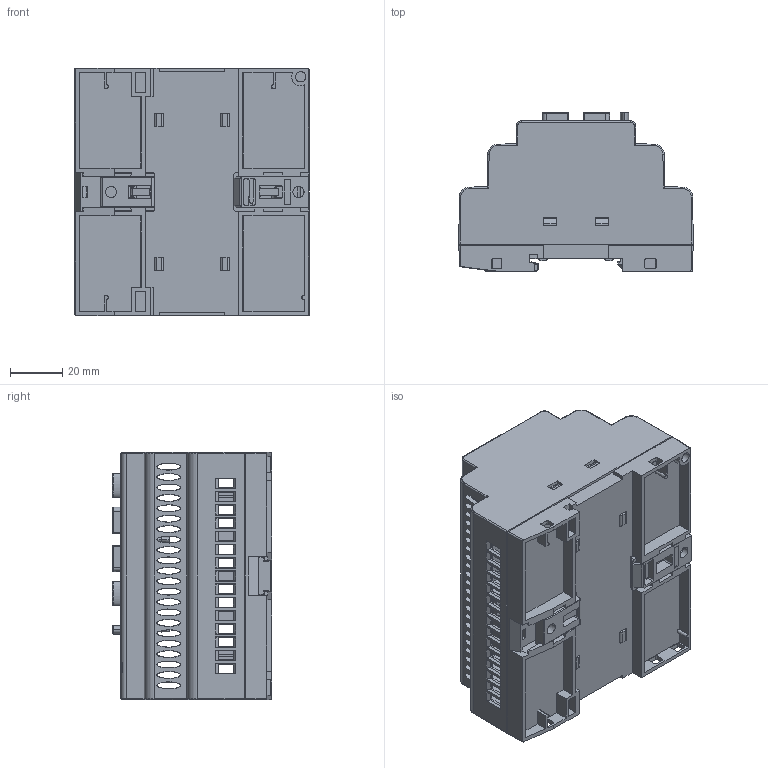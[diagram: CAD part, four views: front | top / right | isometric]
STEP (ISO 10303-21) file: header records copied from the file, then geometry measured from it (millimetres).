
FILE_DESCRIPTION (( 'STEP AP214' ), '1' );
FILE_NAME ('NEX1418.STEP', '2018-02-07T11:13:05', ( '' ), ( '' ), 'SwSTEP 2.0', 'SolidWorks 2017', '' );
FILE_SCHEMA (( 'AUTOMOTIVE_DESIGN' ));
Length unit declared in the file: millimetre
Products named in the file (9): pt_23-159-18__3; pt_23-118-3__3; pt_23-198-5_29; pt_23-198-4_70; pt_23-198-3_25; pt_23-198-2___24; pt_23-198-1_163; NEX1418; pt_23-182-6_2
Assembly tree (8 placements, depth 2):
  NEX1418
    pt_23-198-1_163
    pt_23-198-2___24
    pt_23-198-3_25
    pt_23-198-4_70
    pt_23-198-5_29
    pt_23-118-3__3
    pt_23-159-18__3
    pt_23-182-6_2
Bounding box: 90 x 61.15 x 95 mm (x, y, z)
Volume: 45295.8 mm3; surface area: 94713.9 mm2
Topology: 7 solids, 13 shells, 2603 faces, 7189 edges, 4688 vertices
Faces by surface type: plane 1589, bspline 576, cylinder 238, cone 196, torus 4
Entity records: 103677 total; most frequent: CARTESIAN_POINT 40763, ORIENTED_EDGE 14359, DIRECTION 9615, EDGE_CURVE 7187, VECTOR 4819, LINE 4819, VERTEX_POINT 4688, EDGE_LOOP 2960
